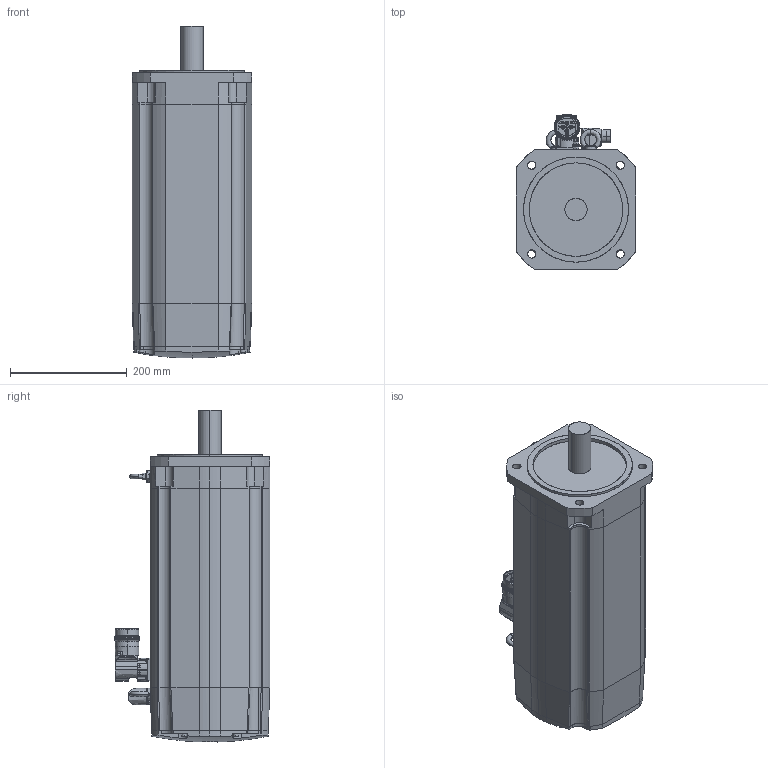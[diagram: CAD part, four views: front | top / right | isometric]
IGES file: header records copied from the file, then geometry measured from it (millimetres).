
Start section: SolidWorks IGES file using analytic representation for surfaces
Global section: file name: C:\PDM\SW-SAP\AA-IGES\SH32053x0xA2100.IGS; native system: SolidWorks 2010; preprocessor: SolidWorks 2010; author: SESA21951; date: 131129.141455; units: millimetre
Bounding box: 205 x 266.5 x 568.83 mm (x, y, z)
Surface area: 693012 mm2 (no closed solid volume)
Topology: 0 solids, 0 shells, 776 faces, 10342 edges, 10323 vertices
Faces by surface type: bspline 406, revolution 370
